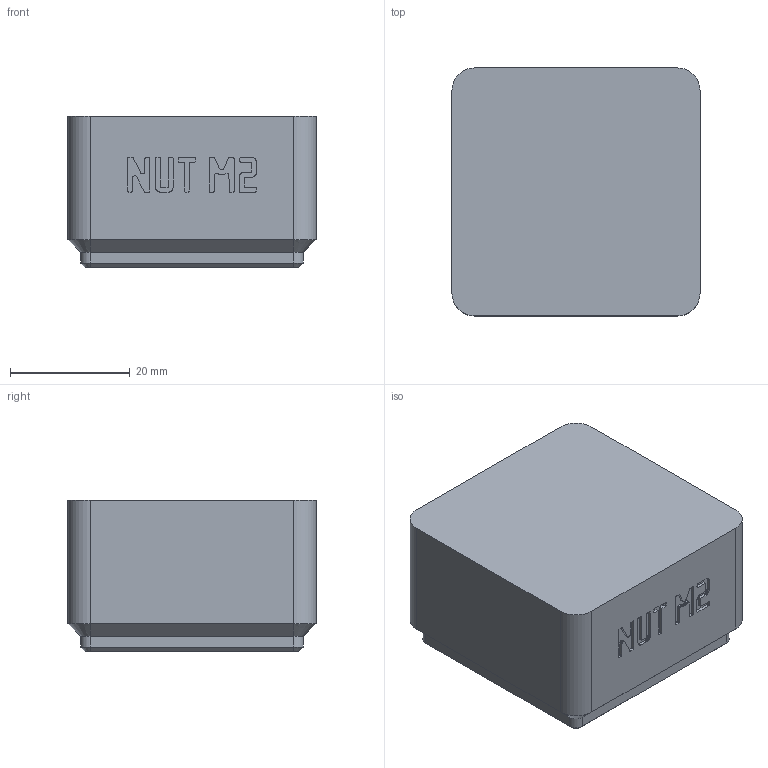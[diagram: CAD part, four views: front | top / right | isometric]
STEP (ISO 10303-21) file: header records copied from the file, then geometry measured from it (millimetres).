
FILE_DESCRIPTION(('Open CASCADE Model'),'2;1');
FILE_NAME('Open CASCADE Shape Model','2026-11-03T16:22:15',('Author'),( 'Open CASCADE'),'Open CASCADE STEP processor 8.0','build123d', 'Unknown');
FILE_SCHEMA(('AUTOMOTIVE_DESIGN { 1 0 10303 214 1 1 1 1 }'));
Products named in the file (1): COMPOUND
Bounding box: 41.5 x 41.5 x 25.4 mm (x, y, z)
Volume: 14674.4 mm3; surface area: 13542.4 mm2
Topology: 1 solids, 2 shells, 989 faces, 2882 edges, 1908 vertices
Faces by surface type: plane 953, cylinder 16, cone 12, bspline 8
Entity records: 69398 total; most frequent: CARTESIAN_POINT 11808, DIRECTION 10510, LINE 8442, VECTOR 8442, ORIENTED_EDGE 5764, PCURVE 5764, DEFINITIONAL_REPRESENTATION 5764, EDGE_CURVE 2882
